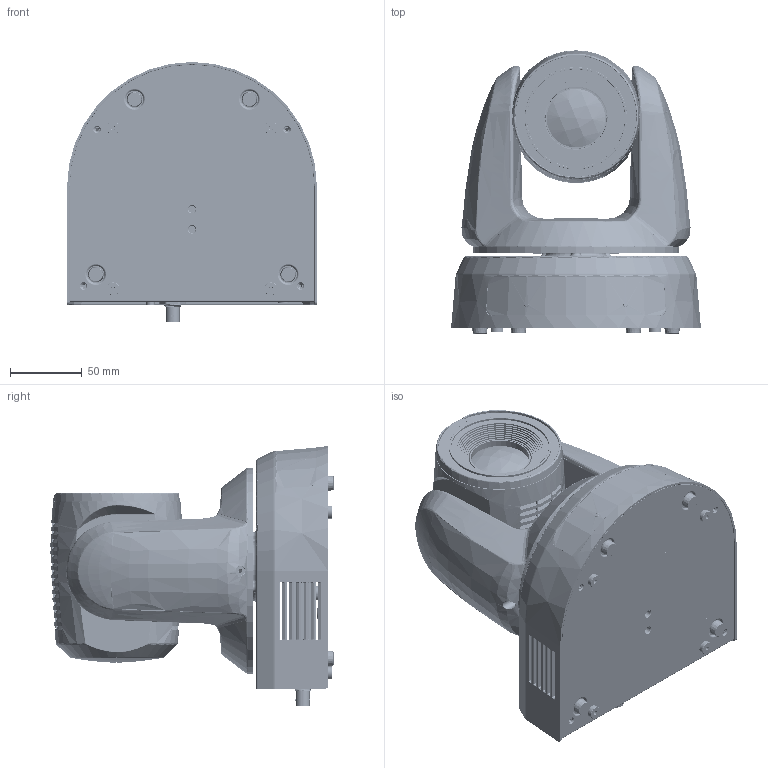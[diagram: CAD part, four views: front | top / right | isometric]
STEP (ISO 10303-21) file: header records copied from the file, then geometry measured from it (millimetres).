
FILE_DESCRIPTION (( 'STEP AP203' ), '1' );
FILE_NAME ('Assy-body-shell-vc-a53.STEP', '2023-12-20T08:25:09', ( '' ), ( '' ), 'SwSTEP 2.0', 'SolidWorks 2020', '' );
FILE_SCHEMA (( 'CONFIG_CONTROL_DESIGN' ));
Length unit declared in the file: millimetre
Products named in the file (127): RB1-C140_RB1-C140.STEP; Z26-RB10_8K2.STEP; 2360048-50G; RB1-C210_RB1-C21000XX(RB1_____^.STEP; RB1-C140_RB1-C140_15.STEP; RB1-C140_RB1-C140_26.STEP; 900d-6452r3-75_asm; conn-23pin-03ph; 3040023-50G; Plastic_Cover_Arm-VC-A53; RB1-P120_10_100 case-2_2.STEP; RB1-C130____s___6.STEP; pts-099-0507; RB1-C140_RB1-C140_19.STEP; 4660173-50-0430; 3860031-50_microphone; pcba-main-layout-top-dvt-0328; Assy-ir-led-vc-a53; RB1-C140_RB1-C140_4.STEP; pcba-main-layout-top-0722; RB1-C140_RB1-C140_9.STEP; RB1-C130____s___2.STEP; RB1-C140_RB1-C140_24.STEP; Plastic_Lens_Ring_VC-A53; Plastic_Tally_Light_VC-A53; RB1-_k___b___~_8PIN.STEP; PRT0001.stp; RB1-C140_RB1-C140_28.STEP; led-kpbva-3010esgc-0415; RB1-C140_RB1-C140_2.STEP; RB1-C140_RB1-C140_17.STEP; 2660015-50; RB1-C140_RB1-C140_23.STEP; RB1-P120_10_100 case-2.STEP; RB1-C140_RB1-C140_7.STEP; 2620016-50G; RB1-C130____s__.STEP; plastic-ir-cover_VC-A53; RB1-C140_RB1-C140_27.STEP; RB1-C140_RB1-C140_20.STEP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
Assembly tree (145 placements, depth 7):
  pcba-main-layout-top-dvt-0328
  pcba-main-layout-top-0722
  pcba-main-layout-bot-dvt-0328
  pcba-main-layout-bot
  pcba-poe-layout-top-0629
Bounding box: 174 x 197.11 x 181.07 mm (x, y, z)
Volume: 505946 mm3; surface area: 492369.5 mm2
Topology: 168 solids, 174 shells, 22545 faces, 63790 edges, 41223 vertices
Faces by surface type: plane 12749, bspline 4819, cylinder 3898, cone 515, torus 389, sphere 175
Entity records: 800914 total; most frequent: CARTESIAN_POINT 269196, ORIENTED_EDGE 119815, DIRECTION 91413, EDGE_CURVE 59914, VERTEX_POINT 38803, VECTOR 37507, LINE 37507, AXIS2_PLACEMENT_3D 26953
